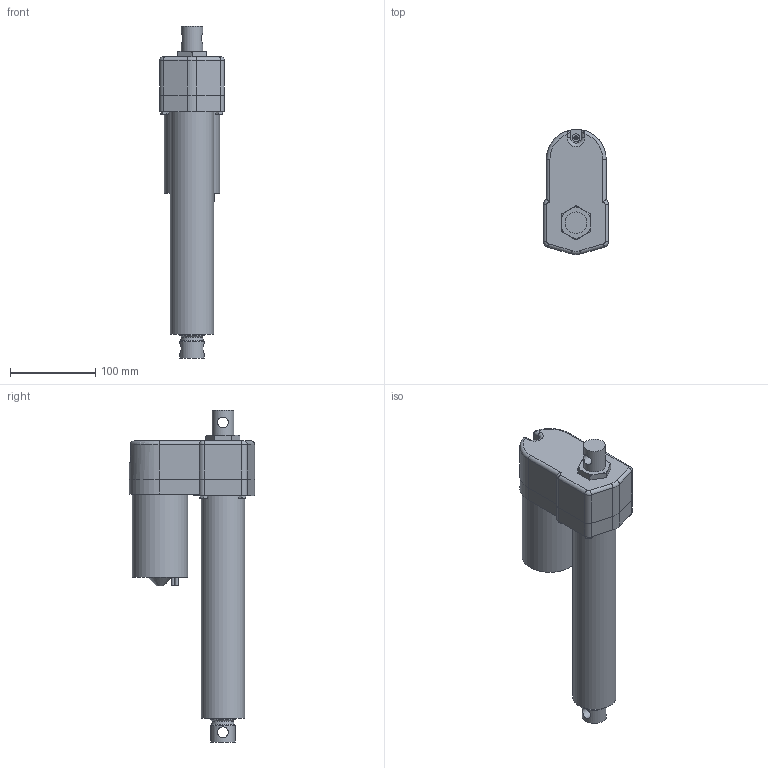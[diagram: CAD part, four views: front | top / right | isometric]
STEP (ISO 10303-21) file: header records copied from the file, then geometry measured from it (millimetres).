
FILE_DESCRIPTION (( 'STEP AP214' ), '1' );
FILE_NAME ('D12-05A5-08M0N-tollo.step', '2020-04-13T14:30:25', ( '' ), ( '' ), 'SwSTEP 2.0', 'SolidWorks 2010', '' );
FILE_SCHEMA (( 'AUTOMOTIVE_DESIGN' ));
Length unit declared in the file: millimetre
Products named in the file (7): Electrak-LA10-Motor-D12-05A5-08M0N-tollo_Electrak-LA10-Motor-D12-05A5-08M0N-tollo; Electrak-LA10-Rear-D12-05A5-08M0N-tollo_Electrak-LA10-Rear-D12-05A5-08M0N-tollo; Electrak-LA10-Tube-D12-05A5-08M0N-tollo_Electrak-LA10-Tube-D12-05A5-08M0N-tollo; Electrak-LA10-Rod-D12-05A5-08M0N-tollo_Electrak-LA10-Rod-D12-05A5-08M0N-tollo; Screw-MFX-H-M5-D12-05A5-08M0N-tollo_Screw-MFX-H-M5-D12-05A5-08M0N-tollo; Screw-M6S-M5-D12-05A5-08M0N-tollo_Screw-M6S-M5-D12-05A5-08M0N-tollo; D12-05A5-08M0N-tollo
Assembly tree (9 placements, depth 2):
  D12-05A5-08M0N-tollo
    Screw-M6S-M5-D12-05A5-08M0N-tollo_Screw-M6S-M5-D12-05A5-08M0N-tollo  x4
    Electrak-LA10-Rod-D12-05A5-08M0N-tollo_Electrak-LA10-Rod-D12-05A5-08M0N-tollo
    Electrak-LA10-Tube-D12-05A5-08M0N-tollo_Electrak-LA10-Tube-D12-05A5-08M0N-tollo
    Electrak-LA10-Rear-D12-05A5-08M0N-tollo_Electrak-LA10-Rear-D12-05A5-08M0N-tollo
    Electrak-LA10-Motor-D12-05A5-08M0N-tollo_Electrak-LA10-Motor-D12-05A5-08M0N-tollo
    Screw-MFX-H-M5-D12-05A5-08M0N-tollo_Screw-MFX-H-M5-D12-05A5-08M0N-tollo
Bounding box: 76.2 x 147.19 x 390 mm (x, y, z)
Volume: 1494609.7 mm3; surface area: 188047.2 mm2
Topology: 9 solids, 9 shells, 221 faces, 506 edges, 322 vertices
Faces by surface type: plane 91, cylinder 84, cone 30, torus 14, bspline 2
Full cylindrical faces by diameter (mm): 4 x2, 4.126 x5, 4.8 x10, 5 x5, 7.878 x4, 9.3 x1, 12.8 x2, 25.4 x1, 28.6 x4, 51 x1, 65.3 x1
Entity records: 5123 total; most frequent: CARTESIAN_POINT 1484, DIRECTION 724, ORIENTED_EDGE 594, AXIS2_PLACEMENT_3D 305, EDGE_CURVE 297, EDGE_LOOP 224, VERTEX_POINT 213, FACE_OUTER_BOUND 179
